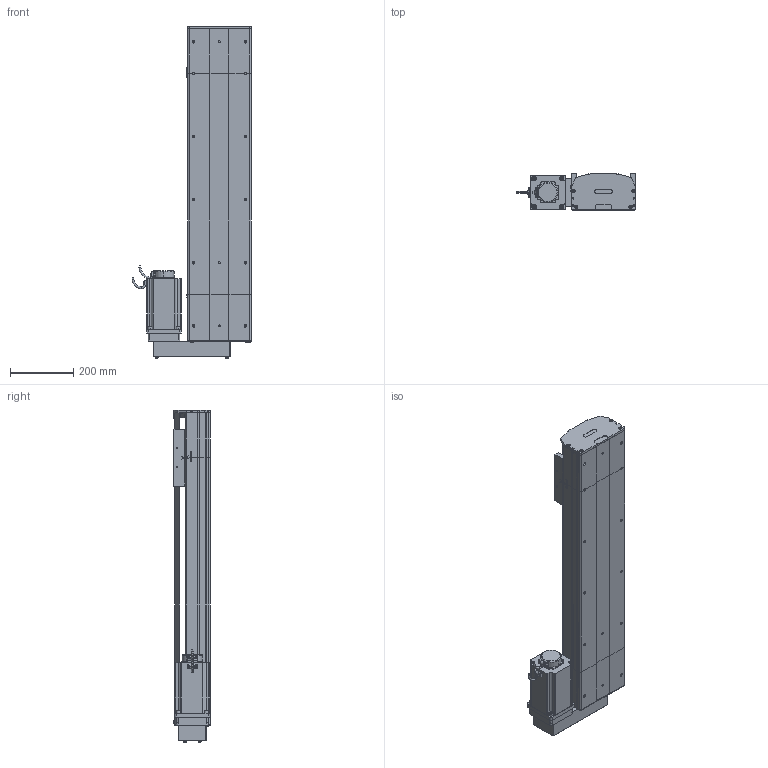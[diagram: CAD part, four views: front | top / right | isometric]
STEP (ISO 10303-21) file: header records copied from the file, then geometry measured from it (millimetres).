
FILE_DESCRIPTION (( 'STEP AP214' ), '1' );
FILE_NAME ('D20 TSH BL S700.STEP', '2010-06-30T08:34:49', ( 'Conseil Régional Haute-Normandie' ), ( 'Conseil Régional Haute-Normandie' ), 'SwSTEP 2.0', 'SolidWorks 2010', '' );
FILE_SCHEMA (( 'AUTOMOTIVE_DESIGN' ));
Length unit declared in the file: millimetre
Products named in the file (35): Conecteur2_Default; renvoi  BR_Default; vis M8 L12_Default; avant 110BLDC170A-630x; codeur 110BLDC170A-630x; Conecteur_Default; vis M5 L70_Default; corpl tail D20 +100_Default; tete d''axe bas D20; tail D20 +100_Default; corps 110BLDC170A-630x; clavette; vis M5 L12_Default; guide D20; Chariot D20; couvercle tail D20_Default; 2 vis M5 L12_Default; vis M5 L25_Default; chariot D20S_Default; Arbre+rail tail D20; tete d''axe haut D20; plaque de  bout tail D20_Default; vis M5 L8 90°_Default; couvercle D20 S700_Default; Plaque racord D20_Default; couvercle head l D20_Default; head BL D20_Default; Arbre+rail head D20; Moteur motionking 110BLDC170A-640x; rail + arbre  D20 S700; plaque de  bout head BR D20_Default; corpl head MD D20_Default; course D20 L700_Default; corp D20 S700_Default; D20 TSH BL S700
Assembly tree (59 placements, depth 4):
  D20 TSH BL S700
    head BL D20_Default
      vis M5 L12_Default  x2
      corpl head MD D20_Default
      2 vis M5 L12_Default  x6
      vis M5 L70_Default  x4
      vis M5 L25_Default  x2
      vis M8 L12_Default  x4
      Arbre+rail head D20
      plaque de  bout head BR D20_Default
      Moteur motionking 110BLDC170A-640x
        Conecteur_Default
        Conecteur2_Default
        avant 110BLDC170A-630x
        corps 110BLDC170A-630x
        codeur 110BLDC170A-630x
        clavette
      renvoi  BR_Default
      couvercle head l D20_Default
      Plaque racord D20_Default
    chariot D20S_Default
      guide D20  x2
      Chariot D20
      vis M5 L12_Default  x4
    course D20 L700_Default
      rail + arbre  D20 S700
      corp D20 S700_Default
      couvercle D20 S700_Default
    tail D20 +100_Default
      vis M5 L8 90°_Default  x2
      vis M5 L25_Default  x2
      2 vis M5 L12_Default  x4
      tete d''axe bas D20
      tete d''axe haut D20
      corpl tail D20 +100_Default
      Arbre+rail tail D20
      couvercle tail D20_Default
      plaque de  bout tail D20_Default
Bounding box: 380 x 115.7 x 1051.7 mm (x, y, z)
Volume: 11096165.1 mm3; surface area: 2259036.8 mm2
Topology: 84 solids, 84 shells, 2322 faces, 5819 edges, 3757 vertices
Faces by surface type: plane 1386, cylinder 648, bspline 136, torus 77, cone 71, sphere 4
Entity records: 75312 total; most frequent: CARTESIAN_POINT 24590, ORIENTED_EDGE 8934, DIRECTION 8428, EDGE_CURVE 4467, LINE 2954, VECTOR 2954, VERTEX_POINT 2939, AXIS2_PLACEMENT_3D 2737
